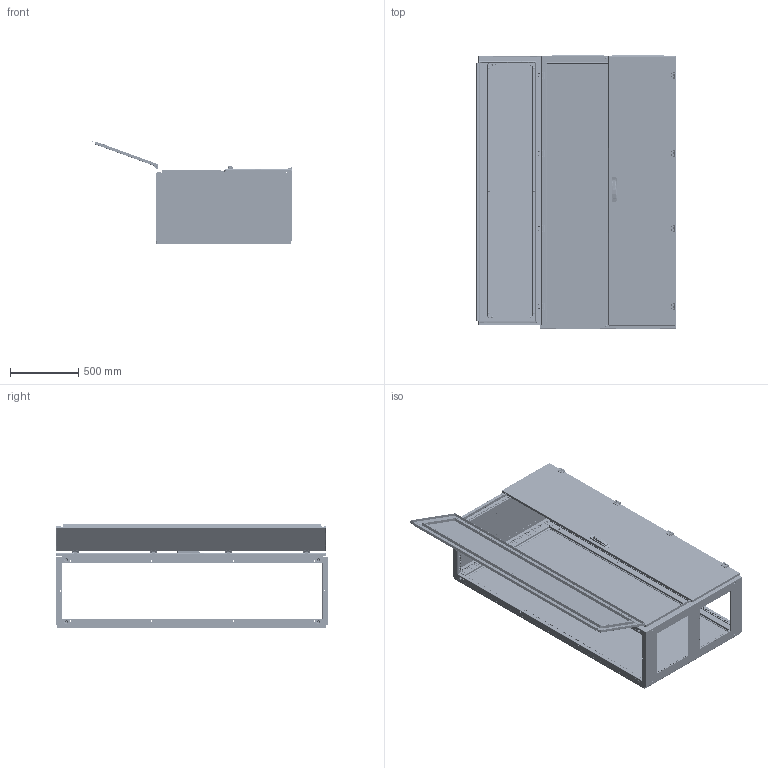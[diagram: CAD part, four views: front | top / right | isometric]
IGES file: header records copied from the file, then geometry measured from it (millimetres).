
Start section: SolidWorks IGES file using analytic representation for surfaces
Global section: file name: U:\14_RD\05_Technical_office\04_Office\Hrdinova\3D modely - IGES\Distri\QA201005.IGS; native system: SolidWorks 2011; preprocessor: SolidWorks 2011; author: adhrja3; date: 170613.083115; units: millimetre
Bounding box: 1468.78 x 2004.5 x 762.7 mm (x, y, z)
Surface area: 16273101 mm2 (no closed solid volume)
Topology: 0 solids, 0 shells, 8999 faces, 153215 edges, 152900 vertices
Faces by surface type: bspline 4700, revolution 4299
